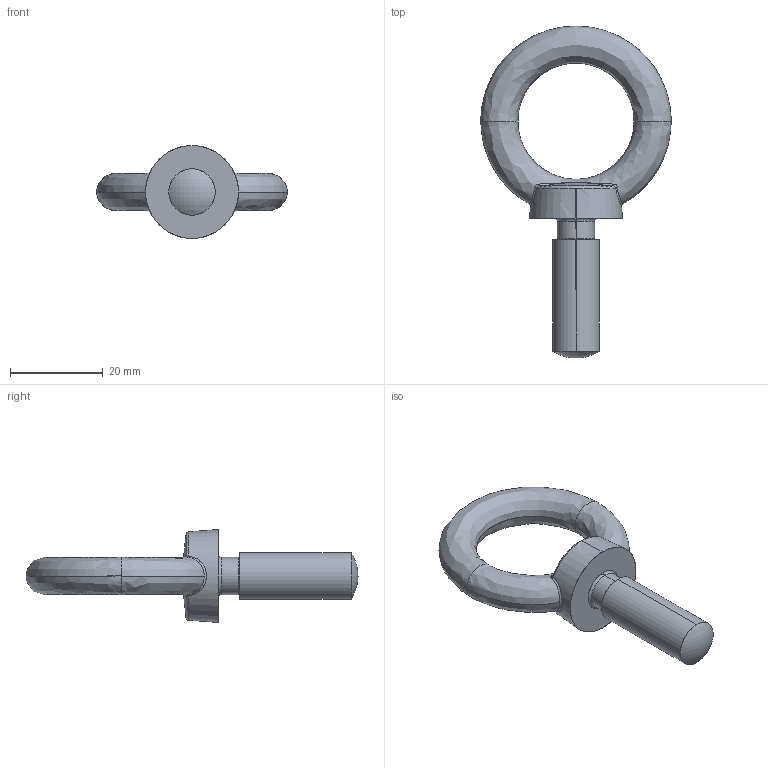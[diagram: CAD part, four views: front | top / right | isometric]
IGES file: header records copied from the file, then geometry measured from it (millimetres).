
Start section: SolidWorks IGES FILE using analytic representation for surfaces
Global section: file name: \\Ls-wvld1d\share\シブタニ\3D設計\ネジ・アイボルト\EB-901(S)-1030\EB-901(S)-1030.IGS,41HSolidWorks; native system: 2003 by SolidWorks Corporation; preprocessor: Version 5.3; author: user; date: 130703.173836; units: millimetre
Bounding box: 41 x 71.48 x 20 mm (x, y, z)
Surface area: 4050.6 mm2 (no closed solid volume)
Topology: 0 solids, 0 shells, 31 faces, 438 edges, 438 vertices
Faces by surface type: bspline 21, revolution 10
